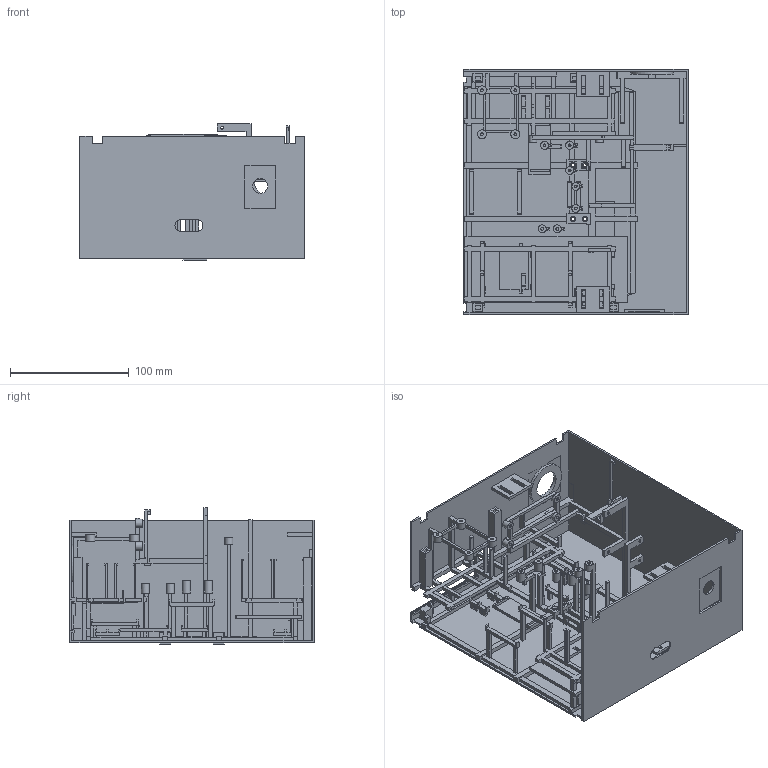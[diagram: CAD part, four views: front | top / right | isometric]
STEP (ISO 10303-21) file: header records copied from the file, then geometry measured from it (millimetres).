
FILE_DESCRIPTION(('Open CASCADE Model'),'2;1');
FILE_NAME('Open CASCADE Shape Model','2026-11-19T23:09:20',('Author'),( 'Open CASCADE'),'Open CASCADE STEP processor 8.0','Open CASCADE 8.0' ,'Unknown');
FILE_SCHEMA(('AUTOMOTIVE_DESIGN { 1 0 10303 214 1 1 1 1 }'));
Products named in the file (1): Open CASCADE STEP translator 8.0 1
Bounding box: 188.85 x 206 x 114.78 mm (x, y, z)
Volume: 249452.5 mm3; surface area: 277371.7 mm2
Topology: 1 solids, 1 shells, 1562 faces, 4625 edges, 3084 vertices
Faces by surface type: plane 1470, cylinder 55, cone 33, bspline 3, sphere 1
Full cylindrical faces by diameter (mm): 2.24 x4, 2.3 x8, 2.36 x7, 2.8 x4, 6.6 x7, 6.9 x4, 7.6 x4, 12.5 x1, 22.8 x1, 23 x1, 36 x1
Entity records: 109066 total; most frequent: CARTESIAN_POINT 23223, DIRECTION 13552, LINE 9662, VECTOR 9662, ORIENTED_EDGE 9250, PCURVE 9250, DEFINITIONAL_REPRESENTATION 9250, EDGE_CURVE 4625
